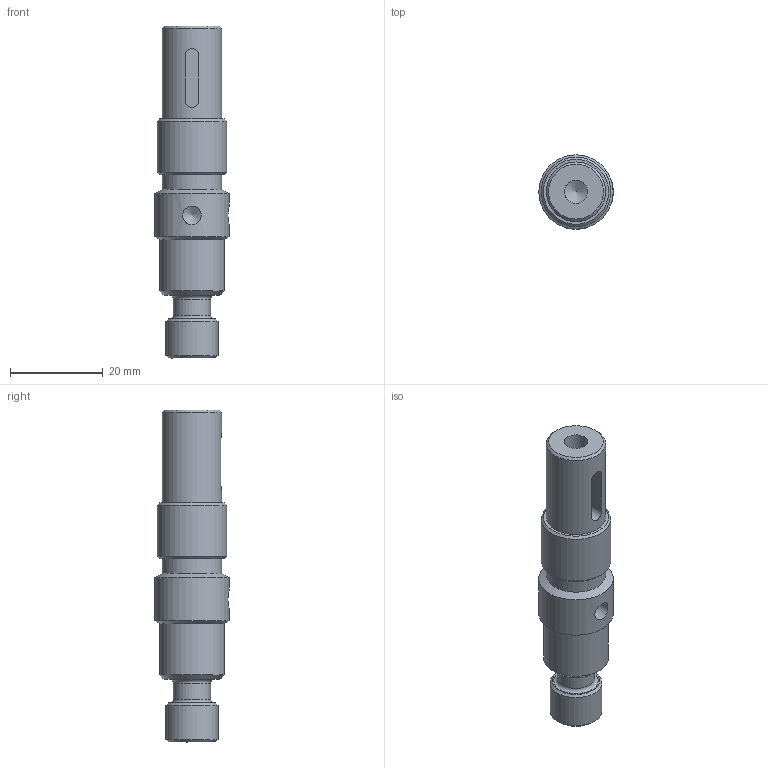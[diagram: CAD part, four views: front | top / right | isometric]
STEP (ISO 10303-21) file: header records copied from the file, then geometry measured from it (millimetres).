
FILE_DESCRIPTION(('STEP AP214'),'1');
FILE_NAME('H_Deco.STEP','2024-11-01T11:02:08',(' '),('GO2cam international'),'Spatial InterOp 3D','GO2cam V6.11',' ');
FILE_SCHEMA(('AUTOMOTIVE_DESIGN { 1 0 10303 214 1 1 1 1 }'));
Length unit declared in the file: millimetre
Products named in the file (1): Corps principal
Bounding box: 16 x 16 x 71.5 mm (x, y, z)
Volume: 9610.3 mm3; surface area: 3881.3 mm2
Topology: 1 solids, 1 shells, 40 faces, 153 edges, 169 vertices
Faces by surface type: cone 15, cylinder 14, plane 9, torus 2
Full cylindrical faces by diameter (mm): 2.5 x2, 4 x2, 5 x1, 8 x1, 11.2 x1, 12.8 x2, 14 x1, 15 x1, 16 x1
Entity records: 2197 total; most frequent: CARTESIAN_POINT 349, DIRECTION 214, STYLED_ITEM 137, PRESENTATION_STYLE_ASSIGNMENT 137, COLOUR_RGB 137, CURVE_STYLE 96, DRAUGHTING_PRE_DEFINED_CURVE_FONT 96, ORIENTED_EDGE 92
